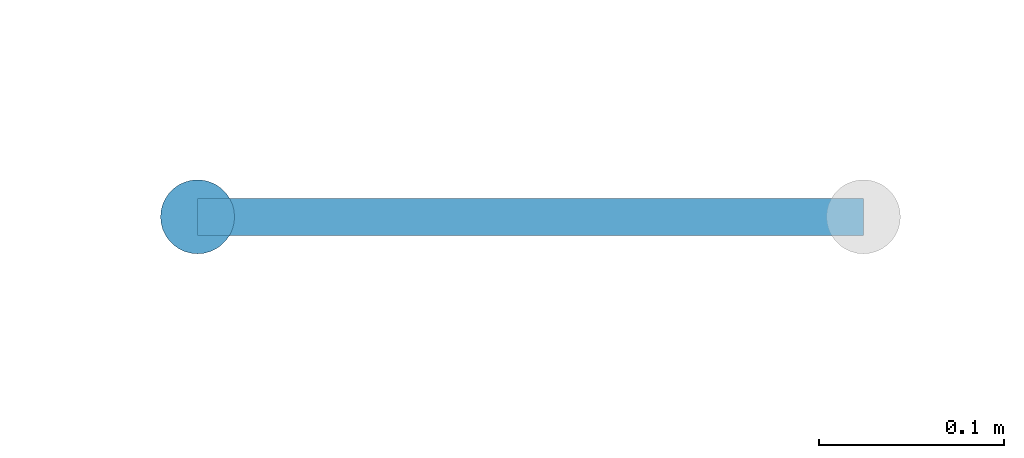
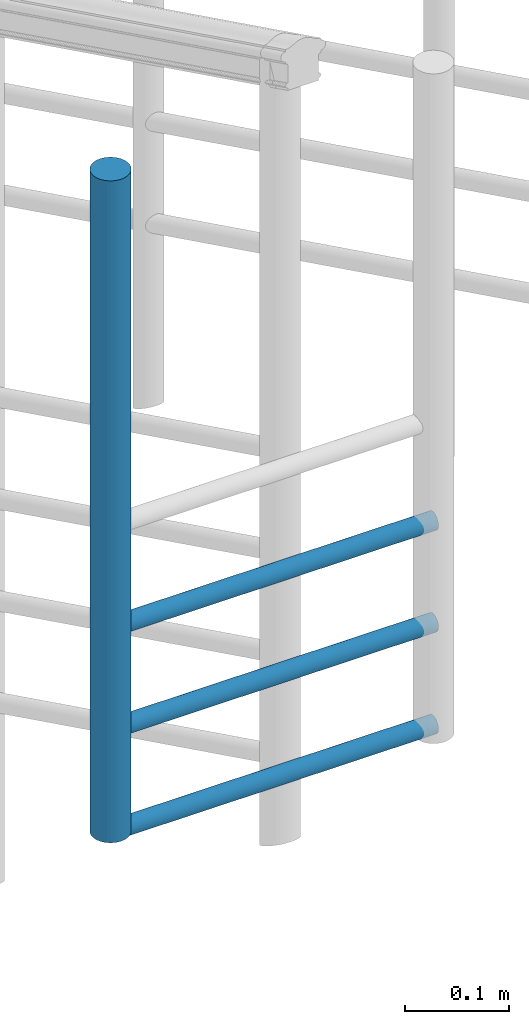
# One storey, part 13 of 16: 4 members, 1 element without a shape of its own.
"""IFC2X3 building model written with IfcOpenShell, lengths in millimetres."""

from ifc_helpers import new_model, entity, si_unit, converted_unit, derived_unit, money_unit, direction, frame, origin_with_axes, place, context, subcontext, project, spatial, faceted_brep, material, type_object, element, aggregate, save


model = new_model("IFC2X3")

# Units and contexts
model_context = context("Model", 3, precision=0.01, world=origin_with_axes(), true_north=direction((0.0, 1.0)))
body_context = subcontext(model_context, "Body", "Model", "MODEL_VIEW")
ifc_project = project(units=[si_unit("LENGTHUNIT", "METRE", prefix="MILLI"), si_unit("AREAUNIT", "SQUARE_METRE"), si_unit("VOLUMEUNIT", "CUBIC_METRE"), converted_unit("PLANEANGLEUNIT", "DEGREE", entity("IfcPlaneAngleMeasure", 0.0174532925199), si_unit("PLANEANGLEUNIT", "RADIAN"), dimensions=[0, 0, 0, 0, 0, 0, 0]), si_unit("SOLIDANGLEUNIT", "STERADIAN"), money_unit("EUR"), converted_unit("TIMEUNIT", "Year", entity("IfcTimeMeasure", 31556926.0), si_unit("TIMEUNIT", "SECOND"), dimensions=[0, 0, 1, 0, 0, 0, 0]), si_unit("MASSUNIT", "GRAM", prefix="KILO"), si_unit("THERMODYNAMICTEMPERATUREUNIT", "DEGREE_CELSIUS"), si_unit("LUMINOUSINTENSITYUNIT", "LUMEN"), si_unit("ENERGYUNIT", "JOULE", prefix="MEGA"), derived_unit("THERMALCONDUCTANCEUNIT", [(si_unit("POWERUNIT", "WATT"), 1), (si_unit("LENGTHUNIT", "METRE"), -1), (si_unit("THERMODYNAMICTEMPERATUREUNIT", "KELVIN"), -1)]), derived_unit("SPECIFICHEATCAPACITYUNIT", [(si_unit("ENERGYUNIT", "JOULE"), 1), (si_unit("MASSUNIT", "GRAM", prefix="KILO"), -1), (si_unit("THERMODYNAMICTEMPERATUREUNIT", "KELVIN"), -1)]), derived_unit("MASSDENSITYUNIT", [(si_unit("MASSUNIT", "GRAM", prefix="KILO"), 1), (si_unit("VOLUMEUNIT", "CUBIC_METRE"), -1)])], contexts=[model_context])

# Site, building, storey
site_placement = place(None, origin_with_axes())
site = spatial("IfcSite", under=ifc_project, at=site_placement, Name="Paldiski mnt 245/1, Tallinn, Harjumaa", CompositionType="COMPLEX")
building_placement = place(site_placement, origin_with_axes())
building = spatial("IfcBuilding", under=site, at=building_placement, Name="RKAS Hoone üldnimetus (kasutust iseloomustav) -> IFC Project Manager -> SOLIBRI", CompositionType="ELEMENT")
storey_placement = place(building_placement, frame((0.0, 0.0, -1200.0), z_axis=(0.0, 0.0, 1.0), x_axis=(1.0, 0.0, 0.0)))
storey = spatial("IfcBuildingStorey", under=building, at=storey_placement, Name="Vundament", CompositionType="ELEMENT", Elevation=-1200.0)

# Railing, members
railing_type = type_object("IfcRailingType", Name="Railing Type", PredefinedType="NOTDEFINED")
railing_placement = place(storey_placement, frame((-45770.0, -10890.5008533, 3090.0), z_axis=(0.0, 0.0, 1.0), x_axis=(-0.773149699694, -0.634223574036, 0.0)))
railing = element("IfcRailing", 1, at=railing_placement, inside=storey, type_object=railing_type, Name="PIIRE", PredefinedType="NOTDEFINED")
ifc_material_1 = material(Name="ET-06_Teras - Konstruktsioon")
member_type_1 = type_object("IfcMemberType", Name="IfcMember", PredefinedType="POST")
member_1_placement = place(railing_placement, frame((278.33389189, -228.320486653, 0.0), z_axis=(0.0, 0.0, 1.0), x_axis=(-0.773149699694, 0.634223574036, 0.0)))
member_1 = element("IfcMember", 2, at=member_1_placement, type_object=member_type_1, material=ifc_material_1, Name="PIIRDE POST - 001", ObjectType="POST", context=body_context, shape_type="Brep", body=[
    faceted_brep([(20.0, 0.0, 0.0), (19.6961550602, 3.47296355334, 0.0), (19.6961550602, 3.47296355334, 780.0), (20.0, 0.0, 780.0), (19.6961550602, -3.47296355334, 0.0), (18.7938524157, -6.84040286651, 0.0), (17.3205080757, -10.0, 0.0), (15.3208888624, -12.8557521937, 0.0), (12.8557521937, -15.3208888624, 0.0), (10.0, -17.3205080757, 0.0), (6.84040286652, -18.7938524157, 0.0), (3.47296355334, -19.6961550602, 0.0), (0.0, -20.0, 0.0), (-3.47296355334, -19.6961550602, 0.0), (-6.84040286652, -18.7938524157, 0.0), (-10.0, -17.3205080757, 0.0), (-12.8557521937, -15.3208888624, 0.0), (-15.3208888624, -12.8557521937, 0.0), (-17.3205080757, -10.0, 0.0), (-18.7938524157, -6.84040286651, 0.0), (-19.6961550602, -3.47296355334, 0.0), (-20.0, 0.0, 0.0), (-19.6961550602, 3.47296355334, 0.0), (-18.7938524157, 6.84040286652, 0.0), (-17.3205080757, 10.0, 0.0), (-15.3208888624, 12.8557521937, 0.0), (-12.8557521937, 15.3208888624, 0.0), (-10.0, 17.3205080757, 0.0), (-6.84040286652, 18.7938524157, 0.0), (-3.47296355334, 19.6961550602, 0.0), (0.0, 20.0, 0.0), (3.47296355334, 19.6961550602, 0.0), (6.84040286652, 18.7938524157, 0.0), (10.0, 17.3205080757, 0.0), (12.8557521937, 15.3208888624, 0.0), (15.3208888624, 12.8557521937, 0.0), (17.3205080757, 10.0, 0.0), (18.7938524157, 6.84040286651, 0.0), (18.7938524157, 6.84040286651, 780.0), (17.3205080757, 10.0, 780.0), (15.3208888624, 12.8557521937, 780.0), (12.8557521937, 15.3208888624, 780.0), (10.0, 17.3205080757, 780.0), (6.84040286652, 18.7938524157, 780.0), (3.47296355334, 19.6961550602, 780.0), (0.0, 20.0, 780.0), (-3.47296355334, 19.6961550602, 780.0), (-6.84040286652, 18.7938524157, 780.0), (-10.0, 17.3205080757, 780.0), (-12.8557521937, 15.3208888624, 780.0), (-15.3208888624, 12.8557521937, 780.0), (-17.3205080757, 10.0, 780.0), (-18.7938524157, 6.84040286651, 780.0), (-19.6961550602, 3.47296355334, 780.0), (-20.0, 0.0, 780.0), (-19.6961550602, -3.47296355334, 780.0), (-18.7938524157, -6.84040286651, 780.0), (-17.3205080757, -10.0, 780.0), (-15.3208888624, -12.8557521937, 780.0), (-12.8557521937, -15.3208888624, 780.0), (-10.0, -17.3205080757, 780.0), (-6.84040286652, -18.7938524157, 780.0), (-3.47296355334, -19.6961550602, 780.0), (0.0, -20.0, 780.0), (3.47296355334, -19.6961550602, 780.0), (6.84040286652, -18.7938524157, 780.0), (10.0, -17.3205080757, 780.0), (12.8557521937, -15.3208888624, 780.0), (15.3208888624, -12.8557521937, 780.0), (17.3205080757, -10.0, 780.0), (18.7938524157, -6.84040286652, 780.0), (19.6961550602, -3.47296355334, 780.0)], [[[0, 1, 2, 3]], [[0, 4, 5, 6, 7, 8, 9, 10, 11, 12, 13, 14, 15, 16, 17, 18, 19, 20, 21, 22, 23, 24, 25, 26, 27, 28, 29, 30, 31, 32, 33, 34, 35, 36, 37, 1]], [[1, 37, 38, 2]], [[3, 2, 38, 39, 40, 41, 42, 43, 44, 45, 46, 47, 48, 49, 50, 51, 52, 53, 54, 55, 56, 57, 58, 59, 60, 61, 62, 63, 64, 65, 66, 67, 68, 69, 70, 71]], [[4, 0, 3, 71]], [[5, 4, 71, 70]], [[6, 5, 70, 69]], [[7, 6, 69, 68]], [[8, 7, 68, 67]], [[9, 8, 67, 66]], [[10, 9, 66, 65]], [[11, 10, 65, 64]], [[12, 11, 64, 63]], [[13, 12, 63, 62]], [[14, 13, 62, 61]], [[15, 14, 61, 60]], [[16, 15, 60, 59]], [[17, 16, 59, 58]], [[18, 17, 58, 57]], [[19, 18, 57, 56]], [[20, 19, 56, 55]], [[21, 20, 55, 54]], [[22, 21, 54, 53]], [[23, 22, 53, 52]], [[24, 23, 52, 51]], [[25, 24, 51, 50]], [[26, 25, 50, 49]], [[27, 26, 49, 48]], [[28, 27, 48, 47]], [[29, 28, 47, 46]], [[30, 29, 46, 45]], [[31, 30, 45, 44]], [[32, 31, 44, 43]], [[33, 32, 43, 42]], [[34, 33, 42, 41]], [[35, 34, 41, 40]], [[36, 35, 40, 39]], [[37, 36, 39, 38]]]),
])
ifc_material_2 = material(Name="ET-07_Teras - Roostevaba")
member_type_2 = type_object("IfcMemberType", Name="IfcMember", PredefinedType="USERDEFINED")
member_2_placement = place(railing_placement, frame((139.166945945, -114.160243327, -14.1421356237), z_axis=(0.0, 0.0, 1.0), x_axis=(-0.773149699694, 0.634223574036, 0.0)))
member_2 = element("IfcMember", 3, at=member_2_placement, type_object=member_type_2, material=ifc_material_2, Name="Piirde alaosa - 001", ObjectType="Rail", context=body_context, shape_type="Brep", body=[
    faceted_brep([(180.0, -10.0, 14.1421356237), (180.0, -9.84807753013, 15.8786174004), (-180.0, -9.84807753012, 15.8786174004), (-180.0, -9.99999999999, 14.1421356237), (180.0, -9.84807753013, 12.4056538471), (180.0, -9.39692620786, 10.7219341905), (180.0, -8.66025403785, 9.14213562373), (180.0, -7.6604444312, 7.71425952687), (180.0, -6.42787609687, 6.48169119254), (180.0, -5.00000000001, 5.48188158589), (180.0, -3.42020143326, 4.74520941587), (180.0, -1.73648177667, 4.29405809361), (180.0, 0.0, 4.14213562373), (180.0, 1.73648177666, 4.29405809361), (180.0, 3.42020143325, 4.74520941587), (180.0, 5.0, 5.48188158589), (180.0, 6.42787609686, 6.48169119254), (180.0, 7.66044443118, 7.71425952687), (180.0, 8.66025403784, 9.14213562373), (180.0, 9.39692620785, 10.7219341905), (180.0, 9.84807753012, 12.4056538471), (180.0, 9.99999999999, 14.1421356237), (180.0, 9.84807753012, 15.8786174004), (180.0, 9.39692620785, 17.562337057), (180.0, 8.66025403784, 19.1421356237), (180.0, 7.66044443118, 20.5700117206), (180.0, 6.42787609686, 21.8025800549), (180.0, 5.0, 22.8023896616), (180.0, 3.42020143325, 23.5390618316), (180.0, 1.73648177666, 23.9902131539), (180.0, 0.0, 24.1421356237), (180.0, -1.73648177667, 23.9902131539), (180.0, -3.42020143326, 23.5390618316), (180.0, -5.00000000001, 22.8023896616), (180.0, -6.42787609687, 21.8025800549), (180.0, -7.6604444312, 20.5700117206), (180.0, -8.66025403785, 19.1421356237), (180.0, -9.39692620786, 17.562337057), (180.0, -5.5, 14.1421356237), (180.0, -5.41644264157, 15.0972006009), (180.0, -5.16830941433, 16.023246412), (180.0, -4.76313972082, 16.8921356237), (180.0, -4.21324443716, 17.677467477), (180.0, -3.53533185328, 18.3553800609), (180.0, -2.75000000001, 18.9052753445), (180.0, -1.8811107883, 19.3104450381), (180.0, -0.955064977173, 19.5585782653), (180.0, 0.0, 19.6421356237), (180.0, 0.955064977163, 19.5585782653), (180.0, 1.88111078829, 19.3104450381), (180.0, 2.75, 18.9052753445), (180.0, 3.53533185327, 18.3553800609), (180.0, 4.21324443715, 17.677467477), (180.0, 4.76313972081, 16.8921356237), (180.0, 5.16830941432, 16.023246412), (180.0, 5.41644264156, 15.0972006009), (180.0, 5.49999999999, 14.1421356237), (180.0, 5.41644264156, 13.1870706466), (180.0, 5.16830941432, 12.2610248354), (180.0, 4.76313972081, 11.3921356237), (180.0, 4.21324443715, 10.6068037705), (180.0, 3.53533185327, 9.92889118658), (180.0, 2.75, 9.37899590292), (180.0, 1.88111078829, 8.97382620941), (180.0, 0.955064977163, 8.72569298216), (180.0, 0.0, 8.64213562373), (180.0, -0.955064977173, 8.72569298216), (180.0, -1.8811107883, 8.97382620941), (180.0, -2.75000000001, 9.37899590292), (180.0, -3.53533185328, 9.92889118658), (180.0, -4.21324443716, 10.6068037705), (180.0, -4.76313972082, 11.3921356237), (180.0, -5.16830941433, 12.2610248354), (180.0, -5.41644264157, 13.1870706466), (-180.0, -9.39692620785, 17.562337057), (-180.0, -8.66025403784, 19.1421356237), (-180.0, -7.66044443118, 20.5700117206), (-180.0, -6.42787609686, 21.8025800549), (-180.0, -5.0, 22.8023896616), (-180.0, -3.42020143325, 23.5390618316), (-180.0, -1.73648177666, 23.9902131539), (-180.0, 0.0, 24.1421356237), (-180.0, 1.73648177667, 23.9902131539), (-180.0, 3.42020143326, 23.5390618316), (-180.0, 5.00000000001, 22.8023896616), (-180.0, 6.42787609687, 21.8025800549), (-180.0, 7.6604444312, 20.5700117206), (-180.0, 8.66025403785, 19.1421356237), (-180.0, 9.39692620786, 17.562337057), (-180.0, 9.84807753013, 15.8786174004), (-180.0, 10.0, 14.1421356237), (-180.0, 9.84807753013, 12.4056538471), (-180.0, 9.39692620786, 10.7219341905), (-180.0, 8.66025403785, 9.14213562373), (-180.0, 7.6604444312, 7.71425952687), (-180.0, 6.42787609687, 6.48169119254), (-180.0, 5.00000000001, 5.48188158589), (-180.0, 3.42020143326, 4.74520941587), (-180.0, 1.73648177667, 4.29405809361), (-180.0, 0.0, 4.14213562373), (-180.0, -1.73648177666, 4.29405809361), (-180.0, -3.42020143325, 4.74520941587), (-180.0, -5.0, 5.48188158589), (-180.0, -6.42787609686, 6.48169119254), (-180.0, -7.66044443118, 7.71425952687), (-180.0, -8.66025403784, 9.14213562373), (-180.0, -9.39692620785, 10.7219341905), (-180.0, -9.84807753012, 12.4056538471), (-180.0, -5.49999999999, 14.1421356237), (-180.0, -5.41644264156, 13.1870706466), (-180.0, -5.16830941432, 12.2610248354), (-180.0, -4.76313972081, 11.3921356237), (-180.0, -4.21324443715, 10.6068037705), (-180.0, -3.53533185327, 9.92889118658), (-180.0, -2.75, 9.37899590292), (-180.0, -1.88111078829, 8.97382620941), (-180.0, -0.955064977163, 8.72569298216), (-180.0, 0.0, 8.64213562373), (-180.0, 0.955064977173, 8.72569298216), (-180.0, 1.8811107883, 8.97382620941), (-180.0, 2.75000000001, 9.37899590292), (-180.0, 3.53533185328, 9.92889118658), (-180.0, 4.21324443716, 10.6068037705), (-180.0, 4.76313972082, 11.3921356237), (-180.0, 5.16830941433, 12.2610248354), (-180.0, 5.41644264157, 13.1870706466), (-180.0, 5.5, 14.1421356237), (-180.0, 5.41644264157, 15.0972006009), (-180.0, 5.16830941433, 16.023246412), (-180.0, 4.76313972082, 16.8921356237), (-180.0, 4.21324443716, 17.677467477), (-180.0, 3.53533185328, 18.3553800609), (-180.0, 2.75000000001, 18.9052753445), (-180.0, 1.8811107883, 19.3104450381), (-180.0, 0.955064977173, 19.5585782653), (-180.0, 0.0, 19.6421356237), (-180.0, -0.955064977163, 19.5585782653), (-180.0, -1.88111078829, 19.3104450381), (-180.0, -2.75, 18.9052753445), (-180.0, -3.53533185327, 18.3553800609), (-180.0, -4.21324443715, 17.677467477), (-180.0, -4.76313972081, 16.8921356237), (-180.0, -5.16830941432, 16.023246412), (-180.0, -5.41644264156, 15.0972006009)], [[[0, 1, 2, 3]], [[0, 4, 5, 6, 7, 8, 9, 10, 11, 12, 13, 14, 15, 16, 17, 18, 19, 20, 21, 22, 23, 24, 25, 26, 27, 28, 29, 30, 31, 32, 33, 34, 35, 36, 37, 1], [38, 39, 40, 41, 42, 43, 44, 45, 46, 47, 48, 49, 50, 51, 52, 53, 54, 55, 56, 57, 58, 59, 60, 61, 62, 63, 64, 65, 66, 67, 68, 69, 70, 71, 72, 73]], [[1, 37, 74, 2]], [[3, 2, 74, 75, 76, 77, 78, 79, 80, 81, 82, 83, 84, 85, 86, 87, 88, 89, 90, 91, 92, 93, 94, 95, 96, 97, 98, 99, 100, 101, 102, 103, 104, 105, 106, 107], [108, 109, 110, 111, 112, 113, 114, 115, 116, 117, 118, 119, 120, 121, 122, 123, 124, 125, 126, 127, 128, 129, 130, 131, 132, 133, 134, 135, 136, 137, 138, 139, 140, 141, 142, 143]], [[4, 0, 3, 107]], [[5, 4, 107, 106]], [[6, 5, 106, 105]], [[7, 6, 105, 104]], [[8, 7, 104, 103]], [[9, 8, 103, 102]], [[10, 9, 102, 101]], [[11, 10, 101, 100]], [[12, 11, 100, 99]], [[13, 12, 99, 98]], [[14, 13, 98, 97]], [[15, 14, 97, 96]], [[16, 15, 96, 95]], [[17, 16, 95, 94]], [[18, 17, 94, 93]], [[19, 18, 93, 92]], [[20, 19, 92, 91]], [[21, 20, 91, 90]], [[22, 21, 90, 89]], [[23, 22, 89, 88]], [[24, 23, 88, 87]], [[25, 24, 87, 86]], [[26, 25, 86, 85]], [[27, 26, 85, 84]], [[28, 27, 84, 83]], [[29, 28, 83, 82]], [[30, 29, 82, 81]], [[31, 30, 81, 80]], [[32, 31, 80, 79]], [[33, 32, 79, 78]], [[34, 33, 78, 77]], [[35, 34, 77, 76]], [[36, 35, 76, 75]], [[37, 36, 75, 74]], [[39, 38, 108, 143]], [[40, 39, 143, 142]], [[41, 40, 142, 141]], [[42, 41, 141, 140]], [[43, 42, 140, 139]], [[44, 43, 139, 138]], [[45, 44, 138, 137]], [[46, 45, 137, 136]], [[47, 46, 136, 135]], [[48, 47, 135, 134]], [[49, 48, 134, 133]], [[50, 49, 133, 132]], [[51, 50, 132, 131]], [[52, 51, 131, 130]], [[53, 52, 130, 129]], [[54, 53, 129, 128]], [[55, 54, 128, 127]], [[56, 55, 127, 126]], [[57, 56, 126, 125]], [[58, 57, 125, 124]], [[59, 58, 124, 123]], [[60, 59, 123, 122]], [[61, 60, 122, 121]], [[62, 61, 121, 120]], [[63, 62, 120, 119]], [[64, 63, 119, 118]], [[65, 64, 118, 117]], [[66, 65, 117, 116]], [[67, 66, 116, 115]], [[68, 67, 115, 114]], [[69, 68, 114, 113]], [[70, 69, 113, 112]], [[71, 70, 112, 111]], [[72, 71, 111, 110]], [[73, 72, 110, 109]], [[38, 73, 109, 108]]]),
])
member_3_placement = place(railing_placement, frame((139.166945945, -114.160243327, 105.857864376), z_axis=(0.0, 0.0, 1.0), x_axis=(-0.773149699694, 0.634223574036, 0.0)))
member_3 = element("IfcMember", 4, at=member_3_placement, type_object=member_type_2, material=ifc_material_2, Name="Piirde alaosa - 001", ObjectType="Rail", context=body_context, shape_type="Brep", body=[
    faceted_brep([(180.0, -10.0, 14.1421356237), (180.0, -9.84807753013, 15.8786174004), (-180.0, -9.84807753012, 15.8786174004), (-180.0, -9.99999999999, 14.1421356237), (180.0, -9.84807753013, 12.4056538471), (180.0, -9.39692620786, 10.7219341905), (180.0, -8.66025403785, 9.14213562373), (180.0, -7.6604444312, 7.71425952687), (180.0, -6.42787609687, 6.48169119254), (180.0, -5.00000000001, 5.48188158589), (180.0, -3.42020143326, 4.74520941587), (180.0, -1.73648177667, 4.29405809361), (180.0, 0.0, 4.14213562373), (180.0, 1.73648177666, 4.29405809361), (180.0, 3.42020143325, 4.74520941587), (180.0, 5.0, 5.48188158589), (180.0, 6.42787609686, 6.48169119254), (180.0, 7.66044443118, 7.71425952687), (180.0, 8.66025403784, 9.14213562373), (180.0, 9.39692620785, 10.7219341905), (180.0, 9.84807753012, 12.4056538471), (180.0, 9.99999999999, 14.1421356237), (180.0, 9.84807753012, 15.8786174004), (180.0, 9.39692620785, 17.562337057), (180.0, 8.66025403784, 19.1421356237), (180.0, 7.66044443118, 20.5700117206), (180.0, 6.42787609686, 21.8025800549), (180.0, 5.0, 22.8023896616), (180.0, 3.42020143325, 23.5390618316), (180.0, 1.73648177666, 23.9902131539), (180.0, 0.0, 24.1421356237), (180.0, -1.73648177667, 23.9902131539), (180.0, -3.42020143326, 23.5390618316), (180.0, -5.00000000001, 22.8023896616), (180.0, -6.42787609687, 21.8025800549), (180.0, -7.6604444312, 20.5700117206), (180.0, -8.66025403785, 19.1421356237), (180.0, -9.39692620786, 17.562337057), (180.0, -5.5, 14.1421356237), (180.0, -5.41644264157, 15.0972006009), (180.0, -5.16830941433, 16.023246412), (180.0, -4.76313972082, 16.8921356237), (180.0, -4.21324443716, 17.677467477), (180.0, -3.53533185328, 18.3553800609), (180.0, -2.75000000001, 18.9052753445), (180.0, -1.8811107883, 19.3104450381), (180.0, -0.955064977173, 19.5585782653), (180.0, 0.0, 19.6421356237), (180.0, 0.955064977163, 19.5585782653), (180.0, 1.88111078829, 19.3104450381), (180.0, 2.75, 18.9052753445), (180.0, 3.53533185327, 18.3553800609), (180.0, 4.21324443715, 17.677467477), (180.0, 4.76313972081, 16.8921356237), (180.0, 5.16830941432, 16.023246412), (180.0, 5.41644264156, 15.0972006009), (180.0, 5.49999999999, 14.1421356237), (180.0, 5.41644264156, 13.1870706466), (180.0, 5.16830941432, 12.2610248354), (180.0, 4.76313972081, 11.3921356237), (180.0, 4.21324443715, 10.6068037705), (180.0, 3.53533185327, 9.92889118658), (180.0, 2.75, 9.37899590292), (180.0, 1.88111078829, 8.97382620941), (180.0, 0.955064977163, 8.72569298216), (180.0, 0.0, 8.64213562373), (180.0, -0.955064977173, 8.72569298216), (180.0, -1.8811107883, 8.97382620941), (180.0, -2.75000000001, 9.37899590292), (180.0, -3.53533185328, 9.92889118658), (180.0, -4.21324443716, 10.6068037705), (180.0, -4.76313972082, 11.3921356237), (180.0, -5.16830941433, 12.2610248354), (180.0, -5.41644264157, 13.1870706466), (-180.0, -9.39692620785, 17.562337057), (-180.0, -8.66025403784, 19.1421356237), (-180.0, -7.66044443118, 20.5700117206), (-180.0, -6.42787609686, 21.8025800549), (-180.0, -5.0, 22.8023896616), (-180.0, -3.42020143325, 23.5390618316), (-180.0, -1.73648177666, 23.9902131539), (-180.0, 0.0, 24.1421356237), (-180.0, 1.73648177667, 23.9902131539), (-180.0, 3.42020143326, 23.5390618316), (-180.0, 5.00000000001, 22.8023896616), (-180.0, 6.42787609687, 21.8025800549), (-180.0, 7.6604444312, 20.5700117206), (-180.0, 8.66025403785, 19.1421356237), (-180.0, 9.39692620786, 17.562337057), (-180.0, 9.84807753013, 15.8786174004), (-180.0, 10.0, 14.1421356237), (-180.0, 9.84807753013, 12.4056538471), (-180.0, 9.39692620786, 10.7219341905), (-180.0, 8.66025403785, 9.14213562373), (-180.0, 7.6604444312, 7.71425952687), (-180.0, 6.42787609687, 6.48169119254), (-180.0, 5.00000000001, 5.48188158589), (-180.0, 3.42020143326, 4.74520941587), (-180.0, 1.73648177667, 4.29405809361), (-180.0, 0.0, 4.14213562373), (-180.0, -1.73648177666, 4.29405809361), (-180.0, -3.42020143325, 4.74520941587), (-180.0, -5.0, 5.48188158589), (-180.0, -6.42787609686, 6.48169119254), (-180.0, -7.66044443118, 7.71425952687), (-180.0, -8.66025403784, 9.14213562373), (-180.0, -9.39692620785, 10.7219341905), (-180.0, -9.84807753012, 12.4056538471), (-180.0, -5.49999999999, 14.1421356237), (-180.0, -5.41644264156, 13.1870706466), (-180.0, -5.16830941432, 12.2610248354), (-180.0, -4.76313972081, 11.3921356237), (-180.0, -4.21324443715, 10.6068037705), (-180.0, -3.53533185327, 9.92889118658), (-180.0, -2.75, 9.37899590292), (-180.0, -1.88111078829, 8.97382620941), (-180.0, -0.955064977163, 8.72569298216), (-180.0, 0.0, 8.64213562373), (-180.0, 0.955064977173, 8.72569298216), (-180.0, 1.8811107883, 8.97382620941), (-180.0, 2.75000000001, 9.37899590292), (-180.0, 3.53533185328, 9.92889118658), (-180.0, 4.21324443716, 10.6068037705), (-180.0, 4.76313972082, 11.3921356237), (-180.0, 5.16830941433, 12.2610248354), (-180.0, 5.41644264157, 13.1870706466), (-180.0, 5.5, 14.1421356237), (-180.0, 5.41644264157, 15.0972006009), (-180.0, 5.16830941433, 16.023246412), (-180.0, 4.76313972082, 16.8921356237), (-180.0, 4.21324443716, 17.677467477), (-180.0, 3.53533185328, 18.3553800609), (-180.0, 2.75000000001, 18.9052753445), (-180.0, 1.8811107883, 19.3104450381), (-180.0, 0.955064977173, 19.5585782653), (-180.0, 0.0, 19.6421356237), (-180.0, -0.955064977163, 19.5585782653), (-180.0, -1.88111078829, 19.3104450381), (-180.0, -2.75, 18.9052753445), (-180.0, -3.53533185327, 18.3553800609), (-180.0, -4.21324443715, 17.677467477), (-180.0, -4.76313972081, 16.8921356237), (-180.0, -5.16830941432, 16.023246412), (-180.0, -5.41644264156, 15.0972006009)], [[[0, 1, 2, 3]], [[0, 4, 5, 6, 7, 8, 9, 10, 11, 12, 13, 14, 15, 16, 17, 18, 19, 20, 21, 22, 23, 24, 25, 26, 27, 28, 29, 30, 31, 32, 33, 34, 35, 36, 37, 1], [38, 39, 40, 41, 42, 43, 44, 45, 46, 47, 48, 49, 50, 51, 52, 53, 54, 55, 56, 57, 58, 59, 60, 61, 62, 63, 64, 65, 66, 67, 68, 69, 70, 71, 72, 73]], [[1, 37, 74, 2]], [[3, 2, 74, 75, 76, 77, 78, 79, 80, 81, 82, 83, 84, 85, 86, 87, 88, 89, 90, 91, 92, 93, 94, 95, 96, 97, 98, 99, 100, 101, 102, 103, 104, 105, 106, 107], [108, 109, 110, 111, 112, 113, 114, 115, 116, 117, 118, 119, 120, 121, 122, 123, 124, 125, 126, 127, 128, 129, 130, 131, 132, 133, 134, 135, 136, 137, 138, 139, 140, 141, 142, 143]], [[4, 0, 3, 107]], [[5, 4, 107, 106]], [[6, 5, 106, 105]], [[7, 6, 105, 104]], [[8, 7, 104, 103]], [[9, 8, 103, 102]], [[10, 9, 102, 101]], [[11, 10, 101, 100]], [[12, 11, 100, 99]], [[13, 12, 99, 98]], [[14, 13, 98, 97]], [[15, 14, 97, 96]], [[16, 15, 96, 95]], [[17, 16, 95, 94]], [[18, 17, 94, 93]], [[19, 18, 93, 92]], [[20, 19, 92, 91]], [[21, 20, 91, 90]], [[22, 21, 90, 89]], [[23, 22, 89, 88]], [[24, 23, 88, 87]], [[25, 24, 87, 86]], [[26, 25, 86, 85]], [[27, 26, 85, 84]], [[28, 27, 84, 83]], [[29, 28, 83, 82]], [[30, 29, 82, 81]], [[31, 30, 81, 80]], [[32, 31, 80, 79]], [[33, 32, 79, 78]], [[34, 33, 78, 77]], [[35, 34, 77, 76]], [[36, 35, 76, 75]], [[37, 36, 75, 74]], [[39, 38, 108, 143]], [[40, 39, 143, 142]], [[41, 40, 142, 141]], [[42, 41, 141, 140]], [[43, 42, 140, 139]], [[44, 43, 139, 138]], [[45, 44, 138, 137]], [[46, 45, 137, 136]], [[47, 46, 136, 135]], [[48, 47, 135, 134]], [[49, 48, 134, 133]], [[50, 49, 133, 132]], [[51, 50, 132, 131]], [[52, 51, 131, 130]], [[53, 52, 130, 129]], [[54, 53, 129, 128]], [[55, 54, 128, 127]], [[56, 55, 127, 126]], [[57, 56, 126, 125]], [[58, 57, 125, 124]], [[59, 58, 124, 123]], [[60, 59, 123, 122]], [[61, 60, 122, 121]], [[62, 61, 121, 120]], [[63, 62, 120, 119]], [[64, 63, 119, 118]], [[65, 64, 118, 117]], [[66, 65, 117, 116]], [[67, 66, 116, 115]], [[68, 67, 115, 114]], [[69, 68, 114, 113]], [[70, 69, 113, 112]], [[71, 70, 112, 111]], [[72, 71, 111, 110]], [[73, 72, 110, 109]], [[38, 73, 109, 108]]]),
])
member_4_placement = place(railing_placement, frame((139.166945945, -114.160243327, 225.857864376), z_axis=(0.0, 0.0, 1.0), x_axis=(-0.773149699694, 0.634223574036, 0.0)))
member_4 = element("IfcMember", 5, at=member_4_placement, type_object=member_type_2, material=ifc_material_2, Name="Piirde alaosa - 001", ObjectType="Rail", context=body_context, shape_type="Brep", body=[
    faceted_brep([(180.0, -10.0, 14.1421356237), (180.0, -9.84807753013, 15.8786174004), (-180.0, -9.84807753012, 15.8786174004), (-180.0, -9.99999999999, 14.1421356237), (180.0, -9.84807753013, 12.4056538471), (180.0, -9.39692620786, 10.7219341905), (180.0, -8.66025403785, 9.14213562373), (180.0, -7.6604444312, 7.71425952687), (180.0, -6.42787609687, 6.48169119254), (180.0, -5.00000000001, 5.48188158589), (180.0, -3.42020143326, 4.74520941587), (180.0, -1.73648177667, 4.29405809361), (180.0, 0.0, 4.14213562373), (180.0, 1.73648177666, 4.29405809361), (180.0, 3.42020143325, 4.74520941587), (180.0, 5.0, 5.48188158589), (180.0, 6.42787609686, 6.48169119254), (180.0, 7.66044443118, 7.71425952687), (180.0, 8.66025403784, 9.14213562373), (180.0, 9.39692620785, 10.7219341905), (180.0, 9.84807753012, 12.4056538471), (180.0, 9.99999999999, 14.1421356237), (180.0, 9.84807753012, 15.8786174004), (180.0, 9.39692620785, 17.562337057), (180.0, 8.66025403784, 19.1421356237), (180.0, 7.66044443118, 20.5700117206), (180.0, 6.42787609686, 21.8025800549), (180.0, 5.0, 22.8023896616), (180.0, 3.42020143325, 23.5390618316), (180.0, 1.73648177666, 23.9902131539), (180.0, 0.0, 24.1421356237), (180.0, -1.73648177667, 23.9902131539), (180.0, -3.42020143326, 23.5390618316), (180.0, -5.00000000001, 22.8023896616), (180.0, -6.42787609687, 21.8025800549), (180.0, -7.6604444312, 20.5700117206), (180.0, -8.66025403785, 19.1421356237), (180.0, -9.39692620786, 17.562337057), (180.0, -5.5, 14.1421356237), (180.0, -5.41644264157, 15.0972006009), (180.0, -5.16830941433, 16.023246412), (180.0, -4.76313972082, 16.8921356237), (180.0, -4.21324443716, 17.677467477), (180.0, -3.53533185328, 18.3553800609), (180.0, -2.75000000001, 18.9052753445), (180.0, -1.8811107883, 19.3104450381), (180.0, -0.955064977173, 19.5585782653), (180.0, 0.0, 19.6421356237), (180.0, 0.955064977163, 19.5585782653), (180.0, 1.88111078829, 19.3104450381), (180.0, 2.75, 18.9052753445), (180.0, 3.53533185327, 18.3553800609), (180.0, 4.21324443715, 17.677467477), (180.0, 4.76313972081, 16.8921356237), (180.0, 5.16830941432, 16.023246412), (180.0, 5.41644264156, 15.0972006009), (180.0, 5.49999999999, 14.1421356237), (180.0, 5.41644264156, 13.1870706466), (180.0, 5.16830941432, 12.2610248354), (180.0, 4.76313972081, 11.3921356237), (180.0, 4.21324443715, 10.6068037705), (180.0, 3.53533185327, 9.92889118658), (180.0, 2.75, 9.37899590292), (180.0, 1.88111078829, 8.97382620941), (180.0, 0.955064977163, 8.72569298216), (180.0, 0.0, 8.64213562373), (180.0, -0.955064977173, 8.72569298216), (180.0, -1.8811107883, 8.97382620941), (180.0, -2.75000000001, 9.37899590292), (180.0, -3.53533185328, 9.92889118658), (180.0, -4.21324443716, 10.6068037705), (180.0, -4.76313972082, 11.3921356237), (180.0, -5.16830941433, 12.2610248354), (180.0, -5.41644264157, 13.1870706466), (-180.0, -9.39692620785, 17.562337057), (-180.0, -8.66025403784, 19.1421356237), (-180.0, -7.66044443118, 20.5700117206), (-180.0, -6.42787609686, 21.8025800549), (-180.0, -5.0, 22.8023896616), (-180.0, -3.42020143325, 23.5390618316), (-180.0, -1.73648177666, 23.9902131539), (-180.0, 0.0, 24.1421356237), (-180.0, 1.73648177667, 23.9902131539), (-180.0, 3.42020143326, 23.5390618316), (-180.0, 5.00000000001, 22.8023896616), (-180.0, 6.42787609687, 21.8025800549), (-180.0, 7.6604444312, 20.5700117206), (-180.0, 8.66025403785, 19.1421356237), (-180.0, 9.39692620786, 17.562337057), (-180.0, 9.84807753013, 15.8786174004), (-180.0, 10.0, 14.1421356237), (-180.0, 9.84807753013, 12.4056538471), (-180.0, 9.39692620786, 10.7219341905), (-180.0, 8.66025403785, 9.14213562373), (-180.0, 7.6604444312, 7.71425952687), (-180.0, 6.42787609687, 6.48169119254), (-180.0, 5.00000000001, 5.48188158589), (-180.0, 3.42020143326, 4.74520941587), (-180.0, 1.73648177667, 4.29405809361), (-180.0, 0.0, 4.14213562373), (-180.0, -1.73648177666, 4.29405809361), (-180.0, -3.42020143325, 4.74520941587), (-180.0, -5.0, 5.48188158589), (-180.0, -6.42787609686, 6.48169119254), (-180.0, -7.66044443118, 7.71425952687), (-180.0, -8.66025403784, 9.14213562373), (-180.0, -9.39692620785, 10.7219341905), (-180.0, -9.84807753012, 12.4056538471), (-180.0, -5.49999999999, 14.1421356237), (-180.0, -5.41644264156, 13.1870706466), (-180.0, -5.16830941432, 12.2610248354), (-180.0, -4.76313972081, 11.3921356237), (-180.0, -4.21324443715, 10.6068037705), (-180.0, -3.53533185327, 9.92889118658), (-180.0, -2.75, 9.37899590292), (-180.0, -1.88111078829, 8.97382620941), (-180.0, -0.955064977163, 8.72569298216), (-180.0, 0.0, 8.64213562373), (-180.0, 0.955064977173, 8.72569298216), (-180.0, 1.8811107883, 8.97382620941), (-180.0, 2.75000000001, 9.37899590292), (-180.0, 3.53533185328, 9.92889118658), (-180.0, 4.21324443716, 10.6068037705), (-180.0, 4.76313972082, 11.3921356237), (-180.0, 5.16830941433, 12.2610248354), (-180.0, 5.41644264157, 13.1870706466), (-180.0, 5.5, 14.1421356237), (-180.0, 5.41644264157, 15.0972006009), (-180.0, 5.16830941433, 16.023246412), (-180.0, 4.76313972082, 16.8921356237), (-180.0, 4.21324443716, 17.677467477), (-180.0, 3.53533185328, 18.3553800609), (-180.0, 2.75000000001, 18.9052753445), (-180.0, 1.8811107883, 19.3104450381), (-180.0, 0.955064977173, 19.5585782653), (-180.0, 0.0, 19.6421356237), (-180.0, -0.955064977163, 19.5585782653), (-180.0, -1.88111078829, 19.3104450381), (-180.0, -2.75, 18.9052753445), (-180.0, -3.53533185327, 18.3553800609), (-180.0, -4.21324443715, 17.677467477), (-180.0, -4.76313972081, 16.8921356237), (-180.0, -5.16830941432, 16.023246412), (-180.0, -5.41644264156, 15.0972006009)], [[[0, 1, 2, 3]], [[0, 4, 5, 6, 7, 8, 9, 10, 11, 12, 13, 14, 15, 16, 17, 18, 19, 20, 21, 22, 23, 24, 25, 26, 27, 28, 29, 30, 31, 32, 33, 34, 35, 36, 37, 1], [38, 39, 40, 41, 42, 43, 44, 45, 46, 47, 48, 49, 50, 51, 52, 53, 54, 55, 56, 57, 58, 59, 60, 61, 62, 63, 64, 65, 66, 67, 68, 69, 70, 71, 72, 73]], [[1, 37, 74, 2]], [[3, 2, 74, 75, 76, 77, 78, 79, 80, 81, 82, 83, 84, 85, 86, 87, 88, 89, 90, 91, 92, 93, 94, 95, 96, 97, 98, 99, 100, 101, 102, 103, 104, 105, 106, 107], [108, 109, 110, 111, 112, 113, 114, 115, 116, 117, 118, 119, 120, 121, 122, 123, 124, 125, 126, 127, 128, 129, 130, 131, 132, 133, 134, 135, 136, 137, 138, 139, 140, 141, 142, 143]], [[4, 0, 3, 107]], [[5, 4, 107, 106]], [[6, 5, 106, 105]], [[7, 6, 105, 104]], [[8, 7, 104, 103]], [[9, 8, 103, 102]], [[10, 9, 102, 101]], [[11, 10, 101, 100]], [[12, 11, 100, 99]], [[13, 12, 99, 98]], [[14, 13, 98, 97]], [[15, 14, 97, 96]], [[16, 15, 96, 95]], [[17, 16, 95, 94]], [[18, 17, 94, 93]], [[19, 18, 93, 92]], [[20, 19, 92, 91]], [[21, 20, 91, 90]], [[22, 21, 90, 89]], [[23, 22, 89, 88]], [[24, 23, 88, 87]], [[25, 24, 87, 86]], [[26, 25, 86, 85]], [[27, 26, 85, 84]], [[28, 27, 84, 83]], [[29, 28, 83, 82]], [[30, 29, 82, 81]], [[31, 30, 81, 80]], [[32, 31, 80, 79]], [[33, 32, 79, 78]], [[34, 33, 78, 77]], [[35, 34, 77, 76]], [[36, 35, 76, 75]], [[37, 36, 75, 74]], [[39, 38, 108, 143]], [[40, 39, 143, 142]], [[41, 40, 142, 141]], [[42, 41, 141, 140]], [[43, 42, 140, 139]], [[44, 43, 139, 138]], [[45, 44, 138, 137]], [[46, 45, 137, 136]], [[47, 46, 136, 135]], [[48, 47, 135, 134]], [[49, 48, 134, 133]], [[50, 49, 133, 132]], [[51, 50, 132, 131]], [[52, 51, 131, 130]], [[53, 52, 130, 129]], [[54, 53, 129, 128]], [[55, 54, 128, 127]], [[56, 55, 127, 126]], [[57, 56, 126, 125]], [[58, 57, 125, 124]], [[59, 58, 124, 123]], [[60, 59, 123, 122]], [[61, 60, 122, 121]], [[62, 61, 121, 120]], [[63, 62, 120, 119]], [[64, 63, 119, 118]], [[65, 64, 118, 117]], [[66, 65, 117, 116]], [[67, 66, 116, 115]], [[68, 67, 115, 114]], [[69, 68, 114, 113]], [[70, 69, 113, 112]], [[71, 70, 112, 111]], [[72, 71, 111, 110]], [[73, 72, 110, 109]], [[38, 73, 109, 108]]]),
])
aggregate(railing, [member_1, member_2, member_3, member_4])

save(model, "model.ifc")
